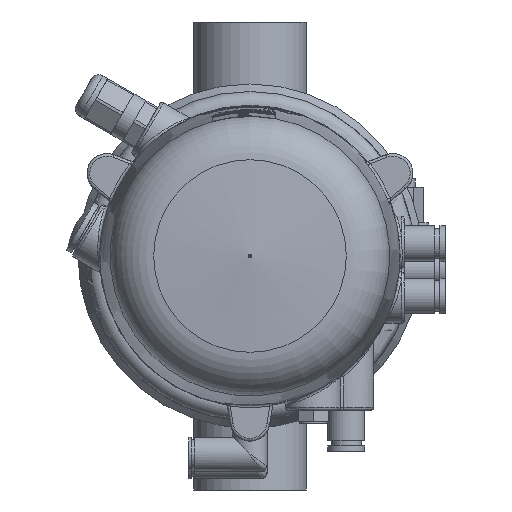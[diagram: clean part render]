
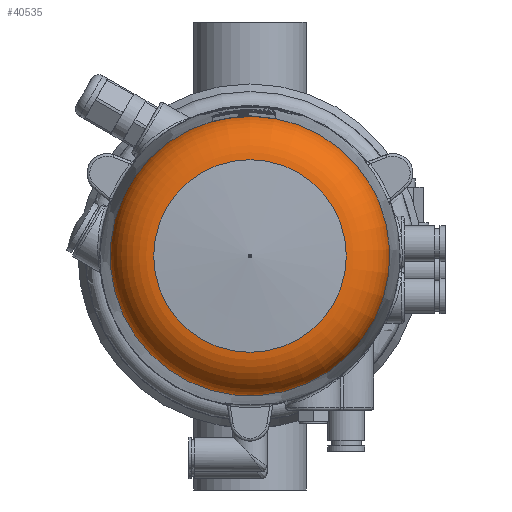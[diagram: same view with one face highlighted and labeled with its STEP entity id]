
A CAD part, front view. The second image highlights one B-rep face of the part: STEP entity #40535.
In plain terms, the highlighted toroidal (fillet/blend) face has major radius 33.812 mm and minor radius 17 mm.
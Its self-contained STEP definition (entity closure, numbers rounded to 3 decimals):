
#503 = CARTESIAN_POINT ( 'NONE',  ( 0., 156.588, 0. ) ) ;
#1263 = ORIENTED_EDGE ( 'NONE', *, *, #21104, .F. ) ;
#1351 = CARTESIAN_POINT ( 'NONE',  ( -38.515, 140.491, -33.11 ) ) ;
#3827 = EDGE_CURVE ( 'NONE', #57030, #60365, #48487, .T. ) ;
#5189 = CARTESIAN_POINT ( 'NONE',  ( -49.218, 140.463, -12.546 ) ) ;
#7557 = EDGE_CURVE ( 'NONE', #23358, #22536, #11147, .T. ) ;
#8269 = DIRECTION ( 'NONE',  ( 0., 0., -1. ) ) ;
#10345 = CARTESIAN_POINT ( 'NONE',  ( 0., 140.463, 0. ) ) ;
#10646 = CARTESIAN_POINT ( 'NONE',  ( -49.218, 140.463, -12.546 ) ) ;
#11147 = B_SPLINE_CURVE_WITH_KNOTS ( 'NONE', 3,
 ( #54240, #23564, #20631, #10646 ),
 .UNSPECIFIED., .F., .F.,
 ( 4, 4 ),
 ( 0., 0. ),
 .UNSPECIFIED. ) ;
#11286 = CARTESIAN_POINT ( 'NONE',  ( -38.517, 140.463, -33.11 ) ) ;
#12174 = EDGE_CURVE ( 'NONE', #57030, #23358, #18944, .T. ) ;
#13743 = AXIS2_PLACEMENT_3D ( 'NONE', #20641, #21282, #40949 ) ;
#14562 = EDGE_CURVE ( 'NONE', #22926, #22926, #45980, .T. ) ;
#18944 = CIRCLE ( 'NONE', #13743, 50.791 ) ;
#19952 = CIRCLE ( 'NONE', #33359, 50.792 ) ;
#20631 = CARTESIAN_POINT ( 'NONE',  ( -49.218, 140.473, -12.546 ) ) ;
#20641 = CARTESIAN_POINT ( 'NONE',  ( 0., 140.491, 0. ) ) ;
#21104 = EDGE_CURVE ( 'NONE', #60365, #22536, #19952, .T. ) ;
#21282 = DIRECTION ( 'NONE',  ( 0., 1., 0. ) ) ;
#21523 = FACE_OUTER_BOUND ( 'NONE', #46207, .T. ) ;
#22193 = AXIS2_PLACEMENT_3D ( 'NONE', #48623, #57686, #8269 ) ;
#22536 = VERTEX_POINT ( 'NONE', #5189 ) ;
#22926 = VERTEX_POINT ( 'NONE', #52002 ) ;
#23358 = VERTEX_POINT ( 'NONE', #41914 ) ;
#23564 = CARTESIAN_POINT ( 'NONE',  ( -49.217, 140.482, -12.546 ) ) ;
#24207 = TOROIDAL_SURFACE ( 'NONE', #22193, 33.812, 17. ) ;
#25066 = DIRECTION ( 'NONE',  ( 0., -1., 0. ) ) ;
#27371 = CARTESIAN_POINT ( 'NONE',  ( -38.516, 140.473, -33.11 ) ) ;
#29736 = DIRECTION ( 'NONE',  ( 0., -1., 0. ) ) ;
#30054 = DIRECTION ( 'NONE',  ( 0., 0., -1. ) ) ;
#32353 = ORIENTED_EDGE ( 'NONE', *, *, #3827, .F. ) ;
#32566 = AXIS2_PLACEMENT_3D ( 'NONE', #503, #25066, #54756 ) ;
#33359 = AXIS2_PLACEMENT_3D ( 'NONE', #10345, #29736, #30054 ) ;
#40535 = ADVANCED_FACE ( 'NONE', ( #46078, #21523 ), #24207, .T. ) ;
#40949 = DIRECTION ( 'NONE',  ( 0., 0., -1. ) ) ;
#41612 = CARTESIAN_POINT ( 'NONE',  ( -38.517, 140.463, -33.11 ) ) ;
#41914 = CARTESIAN_POINT ( 'NONE',  ( -49.217, 140.491, -12.546 ) ) ;
#45980 = CIRCLE ( 'NONE', #32566, 34.998 ) ;
#46078 = FACE_OUTER_BOUND ( 'NONE', #61721, .T. ) ;
#46207 = EDGE_LOOP ( 'NONE', ( #57996 ) ) ;
#48487 = B_SPLINE_CURVE_WITH_KNOTS ( 'NONE', 3,
 ( #62269, #61644, #27371, #41612 ),
 .UNSPECIFIED., .F., .F.,
 ( 4, 4 ),
 ( 0., 0. ),
 .UNSPECIFIED. ) ;
#48623 = CARTESIAN_POINT ( 'NONE',  ( 0., 139.629, 0. ) ) ;
#52002 = CARTESIAN_POINT ( 'NONE',  ( 0., 156.588, -34.998 ) ) ;
#54240 = CARTESIAN_POINT ( 'NONE',  ( -49.217, 140.491, -12.546 ) ) ;
#54756 = DIRECTION ( 'NONE',  ( 0., 0., -1. ) ) ;
#56204 = ORIENTED_EDGE ( 'NONE', *, *, #12174, .T. ) ;
#56653 = ORIENTED_EDGE ( 'NONE', *, *, #7557, .T. ) ;
#57030 = VERTEX_POINT ( 'NONE', #1351 ) ;
#57686 = DIRECTION ( 'NONE',  ( 0., -1., 0. ) ) ;
#57996 = ORIENTED_EDGE ( 'NONE', *, *, #14562, .T. ) ;
#60365 = VERTEX_POINT ( 'NONE', #11286 ) ;
#61644 = CARTESIAN_POINT ( 'NONE',  ( -38.516, 140.482, -33.11 ) ) ;
#61721 = EDGE_LOOP ( 'NONE', ( #32353, #56204, #56653, #1263 ) ) ;
#62269 = CARTESIAN_POINT ( 'NONE',  ( -38.515, 140.491, -33.11 ) ) ;
